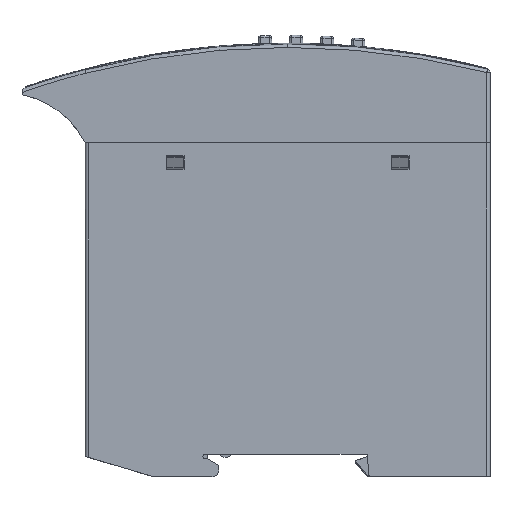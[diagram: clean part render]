
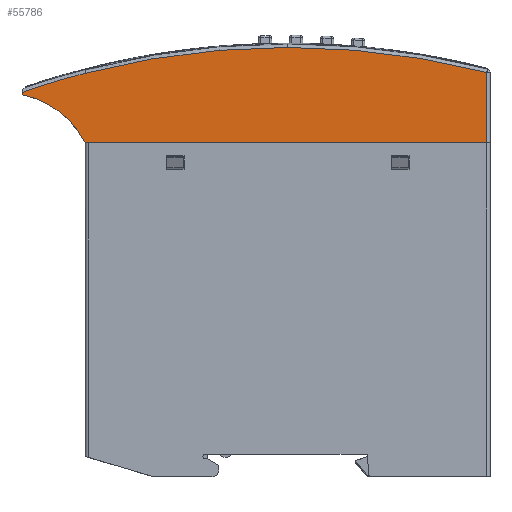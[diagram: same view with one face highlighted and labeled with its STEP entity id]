
A CAD part, left-side view. The second image highlights one B-rep face of the part: STEP entity #55786.
In plain terms, the highlighted planar face has unit normal (-1, 0, 0).
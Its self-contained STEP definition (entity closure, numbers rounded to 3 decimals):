
#2294 = DIRECTION ( 'NONE',  ( 0., -0.009, -1. ) ) ;
#3432 = DIRECTION ( 'NONE',  ( -1., 0., 0. ) ) ;
#3793 = CARTESIAN_POINT ( 'NONE',  ( -11.25, 45.001, 0.1 ) ) ;
#3908 = DIRECTION ( 'NONE',  ( 1., 0., 0. ) ) ;
#4399 = AXIS2_PLACEMENT_3D ( 'NONE', #44129, #3908, #113168 ) ;
#5165 = AXIS2_PLACEMENT_3D ( 'NONE', #34629, #55031, #95076 ) ;
#6984 = ORIENTED_EDGE ( 'NONE', *, *, #13050, .T. ) ;
#11546 = VERTEX_POINT ( 'NONE', #3793 ) ;
#13050 = EDGE_CURVE ( 'NONE', #82824, #11546, #35552, .T. ) ;
#13096 = ORIENTED_EDGE ( 'NONE', *, *, #122068, .T. ) ;
#14137 = VERTEX_POINT ( 'NONE', #32573 ) ;
#23356 = LINE ( 'NONE', #53639, #112371 ) ;
#23832 = CARTESIAN_POINT ( 'NONE',  ( -11.25, 0., 21.3 ) ) ;
#24896 = DIRECTION ( 'NONE',  ( 0., -1., 0. ) ) ;
#27757 = DIRECTION ( 'NONE',  ( 0., 0., 1. ) ) ;
#28035 = DIRECTION ( 'NONE',  ( -1., 0., 0. ) ) ;
#29044 = DIRECTION ( 'NONE',  ( -1., 0., 0. ) ) ;
#29457 = VERTEX_POINT ( 'NONE', #23832 ) ;
#30237 = CARTESIAN_POINT ( 'NONE',  ( -11.25, 45., 15.561 ) ) ;
#32573 = CARTESIAN_POINT ( 'NONE',  ( -11.25, 59., 10.785 ) ) ;
#34629 = CARTESIAN_POINT ( 'NONE',  ( -11.25, 0., -158. ) ) ;
#35552 = LINE ( 'NONE', #115116, #111894 ) ;
#35990 = FACE_OUTER_BOUND ( 'NONE', #94150, .T. ) ;
#37354 = EDGE_CURVE ( 'NONE', #62294, #29457, #49647, .T. ) ;
#38194 = ORIENTED_EDGE ( 'NONE', *, *, #37354, .F. ) ;
#43985 = CIRCLE ( 'NONE', #88089, 179.3 ) ;
#44129 = CARTESIAN_POINT ( 'NONE',  ( -11.25, 0., -158. ) ) ;
#46674 = CARTESIAN_POINT ( 'NONE',  ( -11.25, 44.3, 0.1 ) ) ;
#49647 = CIRCLE ( 'NONE', #5165, 179.3 ) ;
#52047 = EDGE_CURVE ( 'NONE', #29457, #66518, #128225, .T. ) ;
#52217 = CARTESIAN_POINT ( 'NONE',  ( -11.25, 62.895, -8.832 ) ) ;
#52521 = CIRCLE ( 'NONE', #117667, 20. ) ;
#53259 = DIRECTION ( 'NONE',  ( 0., 0., 1. ) ) ;
#53639 = CARTESIAN_POINT ( 'NONE',  ( -11.25, 59., 10.785 ) ) ;
#55031 = DIRECTION ( 'NONE',  ( 1., 0., 0. ) ) ;
#55786 = ADVANCED_FACE ( 'NONE', ( #35990 ), #88526, .T. ) ;
#62294 = VERTEX_POINT ( 'NONE', #30237 ) ;
#62801 = VECTOR ( 'NONE', #24896, 1000. ) ;
#64275 = VERTEX_POINT ( 'NONE', #86366 ) ;
#66518 = VERTEX_POINT ( 'NONE', #72461 ) ;
#67909 = EDGE_CURVE ( 'NONE', #11546, #64275, #105811, .T. ) ;
#70735 = ORIENTED_EDGE ( 'NONE', *, *, #101068, .F. ) ;
#72461 = CARTESIAN_POINT ( 'NONE',  ( -11.25, -44.3, 15.741 ) ) ;
#72467 = VERTEX_POINT ( 'NONE', #99956 ) ;
#77744 = CARTESIAN_POINT ( 'NONE',  ( -11.25, 0., -158. ) ) ;
#81613 = EDGE_CURVE ( 'NONE', #64275, #66518, #82817, .T. ) ;
#82817 = LINE ( 'NONE', #122277, #112745 ) ;
#82824 = VERTEX_POINT ( 'NONE', #126596 ) ;
#86366 = CARTESIAN_POINT ( 'NONE',  ( -11.25, -44.3, 0.1 ) ) ;
#86573 = DIRECTION ( 'NONE',  ( 0., 0., -1. ) ) ;
#88089 = AXIS2_PLACEMENT_3D ( 'NONE', #77744, #29044, #27757 ) ;
#88526 = PLANE ( 'NONE',  #120551 ) ;
#91626 = ORIENTED_EDGE ( 'NONE', *, *, #81613, .T. ) ;
#94150 = EDGE_LOOP ( 'NONE', ( #91626, #110866, #38194, #13096, #129119, #70735, #6984, #124904 ) ) ;
#95076 = DIRECTION ( 'NONE',  ( 0., 0., 1. ) ) ;
#98035 = EDGE_CURVE ( 'NONE', #72467, #14137, #23356, .T. ) ;
#99956 = CARTESIAN_POINT ( 'NONE',  ( -11.25, 59.005, 11.313 ) ) ;
#101068 = EDGE_CURVE ( 'NONE', #82824, #14137, #52521, .T. ) ;
#105811 = LINE ( 'NONE', #46674, #62801 ) ;
#110866 = ORIENTED_EDGE ( 'NONE', *, *, #52047, .F. ) ;
#111894 = VECTOR ( 'NONE', #125555, 1000. ) ;
#112371 = VECTOR ( 'NONE', #2294, 1000. ) ;
#112745 = VECTOR ( 'NONE', #53259, 1000. ) ;
#113168 = DIRECTION ( 'NONE',  ( 0., 0., 1. ) ) ;
#115116 = CARTESIAN_POINT ( 'NONE',  ( -11.25, 45.071, 8.181 ) ) ;
#117667 = AXIS2_PLACEMENT_3D ( 'NONE', #52217, #3432, #123788 ) ;
#118151 = CARTESIAN_POINT ( 'NONE',  ( -11.25, 0., 8.574 ) ) ;
#120551 = AXIS2_PLACEMENT_3D ( 'NONE', #118151, #28035, #86573 ) ;
#122068 = EDGE_CURVE ( 'NONE', #62294, #72467, #43985, .T. ) ;
#122277 = CARTESIAN_POINT ( 'NONE',  ( -11.25, -44.3, 8.574 ) ) ;
#123788 = DIRECTION ( 'NONE',  ( 0., 0., 1. ) ) ;
#124904 = ORIENTED_EDGE ( 'NONE', *, *, #67909, .T. ) ;
#125555 = DIRECTION ( 'NONE',  ( 0., -0.009, -1. ) ) ;
#126596 = CARTESIAN_POINT ( 'NONE',  ( -11.25, 45.001, 0.102 ) ) ;
#128225 = CIRCLE ( 'NONE', #4399, 179.3 ) ;
#129119 = ORIENTED_EDGE ( 'NONE', *, *, #98035, .T. ) ;
